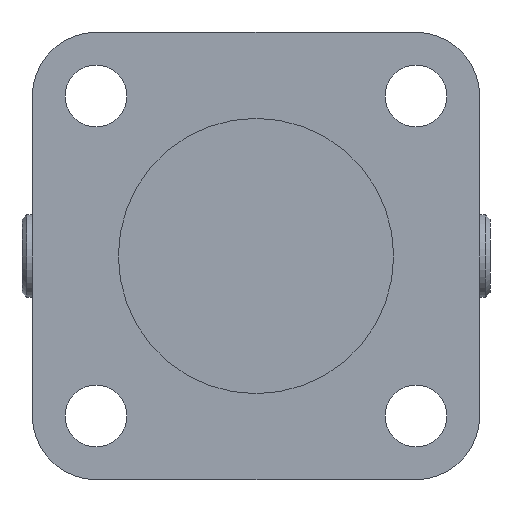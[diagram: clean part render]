
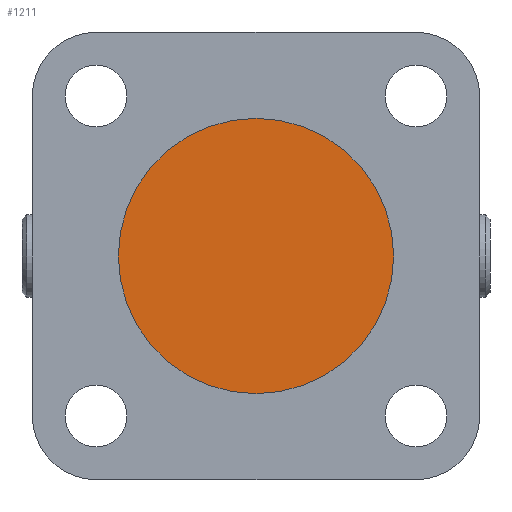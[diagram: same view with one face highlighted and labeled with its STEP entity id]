
A CAD part, front view. The second image highlights one B-rep face of the part: STEP entity #1211.
In plain terms, the highlighted planar face has unit normal (0, -1, 0).
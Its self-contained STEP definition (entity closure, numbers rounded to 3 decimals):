
#82 = CARTESIAN_POINT ( 'NONE',  ( 0., -5., 20. ) ) ;
#85 = CARTESIAN_POINT ( 'NONE',  ( 0., -5., -20. ) ) ;
#86 = CARTESIAN_POINT ( 'NONE',  ( 0., -5., 0. ) ) ;
#87 = CIRCLE ( 'NONE', #125, 20. ) ;
#123 = DIRECTION ( 'NONE',  ( 0., 0., -1. ) ) ;
#124 = DIRECTION ( 'NONE',  ( 0., -1., 0. ) ) ;
#125 = AXIS2_PLACEMENT_3D ( 'NONE', #86, #124, #123 ) ;
#253 = DIRECTION ( 'NONE',  ( 0., 0., -1. ) ) ;
#254 = DIRECTION ( 'NONE',  ( 0., -1., 0. ) ) ;
#255 = CARTESIAN_POINT ( 'NONE',  ( 0., -5., 0. ) ) ;
#256 = AXIS2_PLACEMENT_3D ( 'NONE', #255, #254, #253 ) ;
#257 = CIRCLE ( 'NONE', #256, 20. ) ;
#262 = DIRECTION ( 'NONE',  ( 0., 0., -1. ) ) ;
#263 = DIRECTION ( 'NONE',  ( 0., -1., 0. ) ) ;
#264 = CARTESIAN_POINT ( 'NONE',  ( 0., -5., 0. ) ) ;
#280 = AXIS2_PLACEMENT_3D ( 'NONE', #264, #263, #262 ) ;
#281 = PLANE ( 'NONE',  #280 ) ;
#283 = FACE_OUTER_BOUND ( 'NONE', #1212, .T. ) ;
#955 = ORIENTED_EDGE ( 'NONE', *, *, #1107, .T. ) ;
#1096 = VERTEX_POINT ( 'NONE', #82 ) ;
#1097 = VERTEX_POINT ( 'NONE', #85 ) ;
#1107 = EDGE_CURVE ( 'NONE', #1096, #1097, #87, .T. ) ;
#1211 = ADVANCED_FACE ( 'NONE', ( #283 ), #281, .T. ) ;
#1212 = EDGE_LOOP ( 'NONE', ( #1214, #955 ) ) ;
#1214 = ORIENTED_EDGE ( 'NONE', *, *, #1217, .T. ) ;
#1217 = EDGE_CURVE ( 'NONE', #1097, #1096, #257, .T. ) ;
